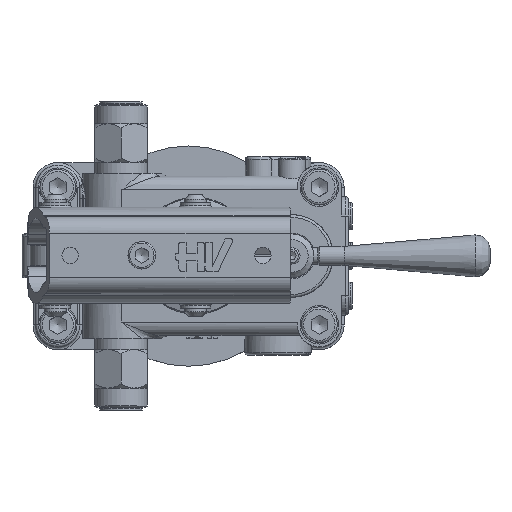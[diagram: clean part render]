
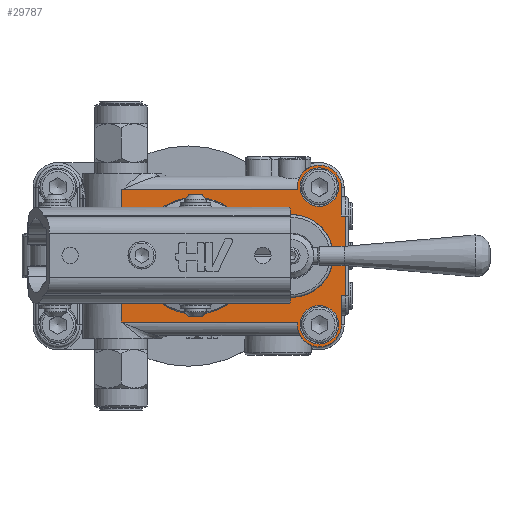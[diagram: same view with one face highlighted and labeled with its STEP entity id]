
A CAD part, top view. The second image highlights one B-rep face of the part: STEP entity #29787.
In plain terms, the highlighted planar face has unit normal (0, 0, 1).
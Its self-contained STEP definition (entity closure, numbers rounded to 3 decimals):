
#28088=CARTESIAN_POINT('',(96.,58.,43.));
#28089=VERTEX_POINT('',#28088);
#28097=CARTESIAN_POINT('',(96.,59.,43.));
#28098=VERTEX_POINT('',#28097);
#28099=CARTESIAN_POINT('',(96.,58.,43.));
#28100=DIRECTION('',(0.0,1.0,0.0));
#28101=VECTOR('',#28100,1.);
#28102=LINE('',#28099,#28101);
#28103=EDGE_CURVE('',#28089,#28098,#28102,.T.);
#28119=CARTESIAN_POINT('',(96.0,10.0,43.));
#28120=VERTEX_POINT('',#28119);
#28130=CARTESIAN_POINT('',(96.0,9.,43.));
#28131=VERTEX_POINT('',#28130);
#28138=CARTESIAN_POINT('',(96.,9.,43.));
#28139=DIRECTION('',(0.0,1.0,0.0));
#28140=VECTOR('',#28139,1.);
#28141=LINE('',#28138,#28140);
#28142=EDGE_CURVE('',#28131,#28120,#28141,.T.);
#28301=CARTESIAN_POINT('',(32.,44.122,43.));
#28302=VERTEX_POINT('',#28301);
#28351=CARTESIAN_POINT('',(33.732,41.0,43.));
#28352=VERTEX_POINT('',#28351);
#28360=CARTESIAN_POINT('',(33.732,41.0,43.));
#28361=CARTESIAN_POINT('',(33.732,41.528,43.));
#28362=CARTESIAN_POINT('',(33.438,42.767,43.));
#28363=CARTESIAN_POINT('',(32.582,43.719,43.));
#28364=CARTESIAN_POINT('',(32.,44.122,43.));
#28365=B_SPLINE_CURVE_WITH_KNOTS('',3,(#28360,#28361,#28362,#28363,#28364),.UNSPECIFIED.,.F.,.U.,(4,1,4),(2.696,2.855,3.066),.UNSPECIFIED.);
#28366=EDGE_CURVE('',#28352,#28302,#28365,.T.);
#28378=CARTESIAN_POINT('',(33.732,27.,43.));
#28379=VERTEX_POINT('',#28378);
#28387=CARTESIAN_POINT('',(33.732,27.,43.));
#28388=DIRECTION('',(0.0,1.0,0.0));
#28389=VECTOR('',#28388,14.);
#28390=LINE('',#28387,#28389);
#28391=EDGE_CURVE('',#28379,#28352,#28390,.T.);
#28424=CARTESIAN_POINT('',(32.,23.878,43.));
#28425=VERTEX_POINT('',#28424);
#28433=CARTESIAN_POINT('',(32.,23.878,43.));
#28434=CARTESIAN_POINT('',(32.433,24.178,43.));
#28435=CARTESIAN_POINT('',(33.336,25.067,43.));
#28436=CARTESIAN_POINT('',(33.732,26.29,43.0));
#28437=CARTESIAN_POINT('',(33.732,27.,43.));
#28438=B_SPLINE_CURVE_WITH_KNOTS('',3,(#28433,#28434,#28435,#28436,#28437),.UNSPECIFIED.,.F.,.U.,(4,1,4),(2.696,2.854,3.065),.UNSPECIFIED.);
#28439=EDGE_CURVE('',#28425,#28379,#28438,.T.);
#29168=CARTESIAN_POINT('',(112.0,59.,43.));
#29169=VERTEX_POINT('',#29168);
#29176=CARTESIAN_POINT('',(112.,48.5,43.));
#29177=VERTEX_POINT('',#29176);
#29178=CARTESIAN_POINT('',(112.0,59.,43.));
#29179=DIRECTION('',(0.0,-1.0,0.0));
#29180=VECTOR('',#29179,10.5);
#29181=LINE('',#29178,#29180);
#29182=EDGE_CURVE('',#29169,#29177,#29181,.T.);
#29297=CARTESIAN_POINT('',(112.0,19.5,43.));
#29298=VERTEX_POINT('',#29297);
#29306=CARTESIAN_POINT('',(112.,9.,43.));
#29307=VERTEX_POINT('',#29306);
#29308=CARTESIAN_POINT('',(112.,19.5,43.));
#29309=DIRECTION('',(0.0,-1.0,0.0));
#29310=VECTOR('',#29309,10.5);
#29311=LINE('',#29308,#29310);
#29312=EDGE_CURVE('',#29298,#29307,#29311,.T.);
#29644=CARTESIAN_POINT('',(113.5,48.5,43.));
#29645=VERTEX_POINT('',#29644);
#29655=CARTESIAN_POINT('',(112.,48.5,43.));
#29656=DIRECTION('',(1.0,0.0,0.0));
#29657=VECTOR('',#29656,1.5);
#29658=LINE('',#29655,#29657);
#29659=EDGE_CURVE('',#29177,#29645,#29658,.T.);
#29664=CARTESIAN_POINT('',(104.,34.,43.));
#29665=DIRECTION('',(0.0,0.0,1.0));
#29666=DIRECTION('',(1.0,0.0,0.0));
#29667=AXIS2_PLACEMENT_3D('',#29664,#29665,#29666);
#29668=PLANE('',#29667);
#29669=CARTESIAN_POINT('',(113.5,19.5,43.));
#29670=VERTEX_POINT('',#29669);
#29671=CARTESIAN_POINT('',(113.5,48.5,43.));
#29672=DIRECTION('',(0.0,-1.0,0.0));
#29673=VECTOR('',#29672,29.);
#29674=LINE('',#29671,#29673);
#29675=EDGE_CURVE('',#29645,#29670,#29674,.T.);
#29676=ORIENTED_EDGE('',*,*,#29675,.F.);
#29677=ORIENTED_EDGE('',*,*,#29659,.F.);
#29678=ORIENTED_EDGE('',*,*,#29182,.F.);
#29679=CARTESIAN_POINT('',(104.,59.,43.));
#29680=DIRECTION('',(0.0,0.0,-1.0));
#29681=DIRECTION('',(1.0,0.0,0.0));
#29682=AXIS2_PLACEMENT_3D('',#29679,#29680,#29681);
#29683=CIRCLE('',#29682,8.0);
#29684=EDGE_CURVE('',#28098,#29169,#29683,.T.);
#29685=ORIENTED_EDGE('',*,*,#29684,.F.);
#29686=ORIENTED_EDGE('',*,*,#28103,.F.);
#29687=CARTESIAN_POINT('',(32.,58.,43.));
#29688=VERTEX_POINT('',#29687);
#29689=CARTESIAN_POINT('',(96.,58.,43.));
#29690=DIRECTION('',(-1.0,0.0,0.0));
#29691=VECTOR('',#29690,64.);
#29692=LINE('',#29689,#29691);
#29693=EDGE_CURVE('',#28089,#29688,#29692,.T.);
#29694=ORIENTED_EDGE('',*,*,#29693,.T.);
#29695=CARTESIAN_POINT('',(32.0,44.122,43.0));
#29696=DIRECTION('',(0.0,1.0,0.0));
#29697=VECTOR('',#29696,13.878);
#29698=LINE('',#29695,#29697);
#29699=EDGE_CURVE('',#28302,#29688,#29698,.T.);
#29700=ORIENTED_EDGE('',*,*,#29699,.F.);
#29701=ORIENTED_EDGE('',*,*,#28366,.F.);
#29702=ORIENTED_EDGE('',*,*,#28391,.F.);
#29703=ORIENTED_EDGE('',*,*,#28439,.F.);
#29704=CARTESIAN_POINT('',(32.,10.0,43.));
#29705=VERTEX_POINT('',#29704);
#29706=CARTESIAN_POINT('',(32.0,10.,43.0));
#29707=DIRECTION('',(0.0,1.0,0.0));
#29708=VECTOR('',#29707,13.878);
#29709=LINE('',#29706,#29708);
#29710=EDGE_CURVE('',#29705,#28425,#29709,.T.);
#29711=ORIENTED_EDGE('',*,*,#29710,.F.);
#29712=CARTESIAN_POINT('',(96.0,10.0,43.));
#29713=DIRECTION('',(-1.0,0.0,0.0));
#29714=VECTOR('',#29713,64.);
#29715=LINE('',#29712,#29714);
#29716=EDGE_CURVE('',#28120,#29705,#29715,.T.);
#29717=ORIENTED_EDGE('',*,*,#29716,.F.);
#29718=ORIENTED_EDGE('',*,*,#28142,.F.);
#29719=CARTESIAN_POINT('',(104.0,9.,43.));
#29720=DIRECTION('',(0.0,0.0,-1.0));
#29721=DIRECTION('',(-1.0,0.0,0.0));
#29722=AXIS2_PLACEMENT_3D('',#29719,#29720,#29721);
#29723=CIRCLE('',#29722,8.0);
#29724=EDGE_CURVE('',#29307,#28131,#29723,.T.);
#29725=ORIENTED_EDGE('',*,*,#29724,.F.);
#29726=ORIENTED_EDGE('',*,*,#29312,.F.);
#29727=CARTESIAN_POINT('',(112.0,19.5,43.));
#29728=DIRECTION('',(1.0,0.0,0.0));
#29729=VECTOR('',#29728,1.5);
#29730=LINE('',#29727,#29729);
#29731=EDGE_CURVE('',#29298,#29670,#29730,.T.);
#29732=ORIENTED_EDGE('',*,*,#29731,.T.);
#29733=EDGE_LOOP('',(#29676,#29677,#29678,#29685,#29686,#29694,#29700,#29701,#29702,#29703,#29711,#29717,#29718,#29725,#29726,#29732));
#29734=FACE_OUTER_BOUND('',#29733,.T.);
#29735=CARTESIAN_POINT('',(65.063,52.009,43.));
#29736=VERTEX_POINT('',#29735);
#29737=CARTESIAN_POINT('',(59.,34.,43.));
#29738=DIRECTION('',(0.,0.,-1.0));
#29739=DIRECTION('',(-0.319,-0.948,0.));
#29740=AXIS2_PLACEMENT_3D('',#29737,#29738,#29739);
#29741=CIRCLE('',#29740,19.002);
#29742=EDGE_CURVE('',#29736,#29736,#29741,.T.);
#29743=ORIENTED_EDGE('',*,*,#29742,.T.);
#29744=EDGE_LOOP('',(#29743));
#29745=FACE_BOUND('',#29744,.T.);
#29746=CARTESIAN_POINT('',(111.,59.,43.));
#29747=VERTEX_POINT('',#29746);
#29748=CARTESIAN_POINT('',(104.,59.,43.));
#29749=DIRECTION('',(0.0,0.0,-1.0));
#29750=DIRECTION('',(1.0,0.0,0.0));
#29751=AXIS2_PLACEMENT_3D('',#29748,#29749,#29750);
#29752=CIRCLE('',#29751,7.);
#29753=EDGE_CURVE('',#29747,#29747,#29752,.T.);
#29754=ORIENTED_EDGE('',*,*,#29753,.T.);
#29755=EDGE_LOOP('',(#29754));
#29756=FACE_BOUND('',#29755,.T.);
#29757=CARTESIAN_POINT('',(111.0,9.,43.));
#29758=VERTEX_POINT('',#29757);
#29759=CARTESIAN_POINT('',(104.0,9.,43.));
#29760=DIRECTION('',(0.0,0.0,-1.0));
#29761=DIRECTION('',(1.0,0.0,0.0));
#29762=AXIS2_PLACEMENT_3D('',#29759,#29760,#29761);
#29763=CIRCLE('',#29762,7.);
#29764=EDGE_CURVE('',#29758,#29758,#29763,.T.);
#29765=ORIENTED_EDGE('',*,*,#29764,.T.);
#29766=EDGE_LOOP('',(#29765));
#29767=FACE_BOUND('',#29766,.T.);
#29768=CARTESIAN_POINT('',(83.0,44.198,43.));
#29769=VERTEX_POINT('',#29768);
#29770=CARTESIAN_POINT('',(83.0,23.802,43.));
#29771=VERTEX_POINT('',#29770);
#29772=CARTESIAN_POINT('',(94.,34.0,43.));
#29773=DIRECTION('',(0.0,0.0,-1.0));
#29774=DIRECTION('',(-1.0,0.0,0.0));
#29775=AXIS2_PLACEMENT_3D('',#29772,#29773,#29774);
#29776=CIRCLE('',#29775,15.0);
#29777=EDGE_CURVE('',#29769,#29771,#29776,.T.);
#29778=ORIENTED_EDGE('',*,*,#29777,.T.);
#29779=CARTESIAN_POINT('',(83.0,23.802,43.));
#29780=DIRECTION('',(0.0,1.0,0.0));
#29781=VECTOR('',#29780,20.396);
#29782=LINE('',#29779,#29781);
#29783=EDGE_CURVE('',#29771,#29769,#29782,.T.);
#29784=ORIENTED_EDGE('',*,*,#29783,.T.);
#29785=EDGE_LOOP('',(#29778,#29784));
#29786=FACE_BOUND('',#29785,.T.);
#29787=ADVANCED_FACE('',(#29734,#29745,#29756,#29767,#29786),#29668,.T.);
